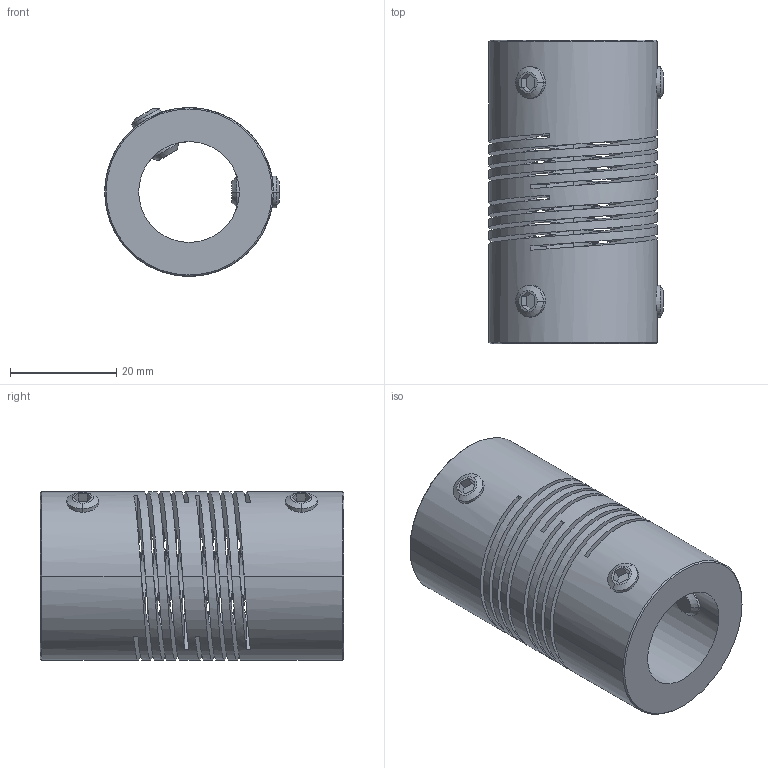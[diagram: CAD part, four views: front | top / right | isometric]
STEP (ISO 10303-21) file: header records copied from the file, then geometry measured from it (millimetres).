
FILE_DESCRIPTION((''),'2;1');
FILE_NAME('722_32_ASM','2006-12-05T',('Gary Melling'),(''),'PRO/ENGINEER BY PARAMETRIC TECHNOLOGY CORPORATION, 2006240','PRO/ENGINEER BY PARAMETRIC TECHNOLOGY CORPORATION, 2006240','');
FILE_SCHEMA(('CONFIG_CONTROL_DESIGN'));
Length unit declared in the file: millimetre
Products named in the file (3): 722_32; GS_6S; 722_32_ASM
Assembly tree (5 placements, depth 2):
  722_32_ASM
    722_32
    GS_6S  x4
Bounding box: 32.9 x 57.2 x 31.8 mm (x, y, z)
Volume: 25447.1 mm3; surface area: 18344.3 mm2
Topology: 5 solids, 5 shells, 130 faces, 358 edges, 228 vertices
Faces by surface type: plane 52, cylinder 46, cone 20, bspline 12
Entity records: 5361 total; most frequent: CARTESIAN_POINT 3108, ORIENTED_EDGE 524, DIRECTION 348, EDGE_CURVE 262, VERTEX_POINT 168, VECTOR 130, LINE 130, AXIS2_PLACEMENT_3D 109
